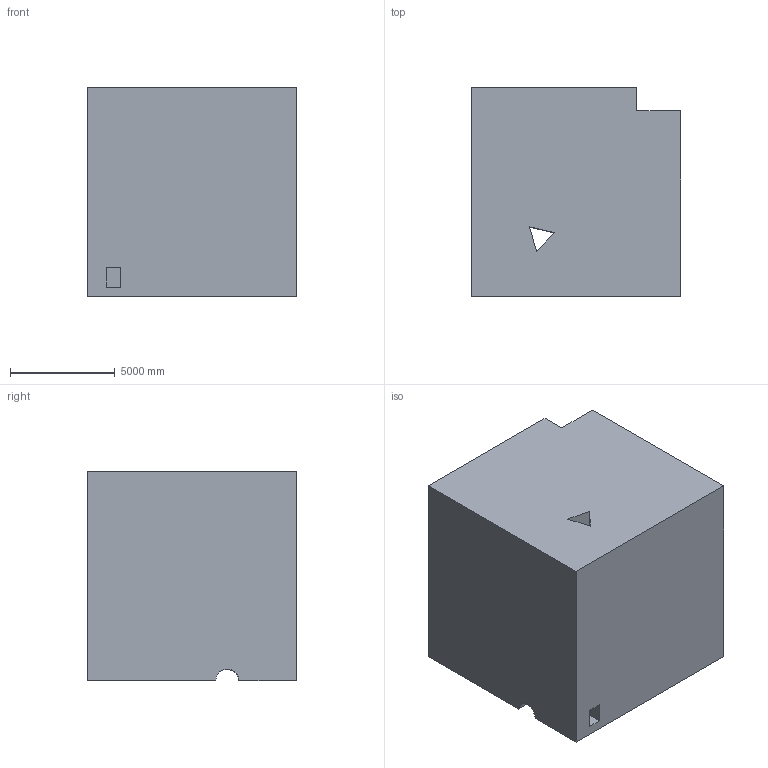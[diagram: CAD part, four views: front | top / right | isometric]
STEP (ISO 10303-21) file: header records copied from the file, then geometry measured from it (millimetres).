
FILE_DESCRIPTION (( 'STEP AP203' ), '1' );
FILE_NAME ('141.STEP', '2022-09-06T15:11:58', ( 'user' ), ( '' ), 'SwSTEP 2.0', 'SolidWorks 2021', '' );
FILE_SCHEMA (( 'CONFIG_CONTROL_DESIGN' ));
Length unit declared in the file: centimetre
Products named in the file (1): 141
Bounding box: 10000 x 10000 x 10000 mm (x, y, z)
Volume: 947553981381.6 mm3; surface area: 671620018.3 mm2
Topology: 1 solids, 1 shells, 28 faces, 81 edges, 54 vertices
Faces by surface type: plane 25, cylinder 3
Entity records: 998 total; most frequent: CARTESIAN_POINT 179, ORIENTED_EDGE 162, DIRECTION 142, EDGE_CURVE 81, LINE 68, VECTOR 68, VERTEX_POINT 54, AXIS2_PLACEMENT_3D 37
